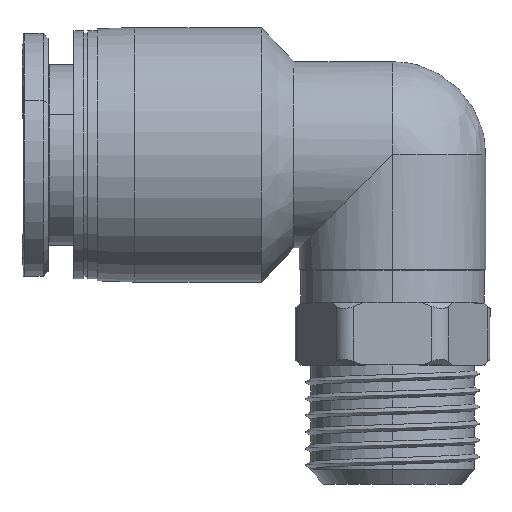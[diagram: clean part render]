
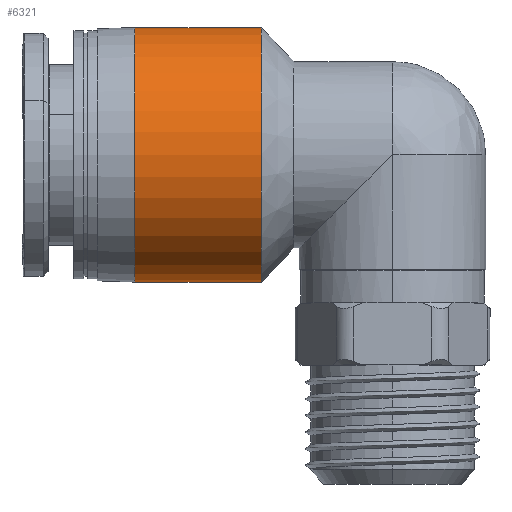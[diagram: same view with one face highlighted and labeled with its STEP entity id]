
A CAD part, top view. The second image highlights one B-rep face of the part: STEP entity #6321.
In plain terms, the highlighted cylindrical face has radius 10.25 mm (diameter 20.5 mm), a partial arc.
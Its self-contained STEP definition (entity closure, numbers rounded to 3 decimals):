
#156 = VERTEX_POINT ( 'NONE', #4255 ) ;
#423 = DIRECTION ( 'NONE',  ( -1., 0., 0. ) ) ;
#581 = CARTESIAN_POINT ( 'NONE',  ( 10.2, -10.25, 0. ) ) ;
#708 = VECTOR ( 'NONE', #1570, 1000. ) ;
#1258 = VERTEX_POINT ( 'NONE', #581 ) ;
#1570 = DIRECTION ( 'NONE',  ( -1., 0., 0. ) ) ;
#1810 = ORIENTED_EDGE ( 'NONE', *, *, #5758, .F. ) ;
#1921 = VECTOR ( 'NONE', #423, 1000. ) ;
#2222 = AXIS2_PLACEMENT_3D ( 'NONE', #3217, #4644, #5875 ) ;
#2228 = DIRECTION ( 'NONE',  ( 0., -1., 0. ) ) ;
#2516 = CARTESIAN_POINT ( 'NONE',  ( 0., 10.25, 0. ) ) ;
#3217 = CARTESIAN_POINT ( 'NONE',  ( 10.2, 0., 0. ) ) ;
#3232 = CIRCLE ( 'NONE', #3621, 10.25 ) ;
#3500 = VERTEX_POINT ( 'NONE', #2516 ) ;
#3621 = AXIS2_PLACEMENT_3D ( 'NONE', #6118, #4135, #8938 ) ;
#3666 = EDGE_CURVE ( 'NONE', #156, #3500, #3232, .T. ) ;
#4135 = DIRECTION ( 'NONE',  ( -1., 0., 0. ) ) ;
#4179 = LINE ( 'NONE', #6357, #708 ) ;
#4219 = ORIENTED_EDGE ( 'NONE', *, *, #4592, .T. ) ;
#4255 = CARTESIAN_POINT ( 'NONE',  ( 0., -10.25, 0. ) ) ;
#4506 = FACE_OUTER_BOUND ( 'NONE', #5198, .T. ) ;
#4592 = EDGE_CURVE ( 'NONE', #7871, #3500, #6110, .T. ) ;
#4644 = DIRECTION ( 'NONE',  ( -1., 0., 0. ) ) ;
#5198 = EDGE_LOOP ( 'NONE', ( #8653, #4219, #7523, #1810 ) ) ;
#5451 = CYLINDRICAL_SURFACE ( 'NONE', #5611, 10.25 ) ;
#5611 = AXIS2_PLACEMENT_3D ( 'NONE', #5618, #5683, #2228 ) ;
#5618 = CARTESIAN_POINT ( 'NONE',  ( -4.9, 0., 0. ) ) ;
#5683 = DIRECTION ( 'NONE',  ( -1., 0., 0. ) ) ;
#5758 = EDGE_CURVE ( 'NONE', #1258, #156, #4179, .T. ) ;
#5875 = DIRECTION ( 'NONE',  ( 0., -1., 0. ) ) ;
#5968 = CARTESIAN_POINT ( 'NONE',  ( -4.9, 10.25, 0. ) ) ;
#6110 = LINE ( 'NONE', #5968, #1921 ) ;
#6118 = CARTESIAN_POINT ( 'NONE',  ( 0., 0., 0. ) ) ;
#6321 = ADVANCED_FACE ( 'NONE', ( #4506 ), #5451, .T. ) ;
#6357 = CARTESIAN_POINT ( 'NONE',  ( -4.9, -10.25, 0. ) ) ;
#6586 = EDGE_CURVE ( 'NONE', #1258, #7871, #7275, .T. ) ;
#7275 = CIRCLE ( 'NONE', #2222, 10.25 ) ;
#7523 = ORIENTED_EDGE ( 'NONE', *, *, #3666, .F. ) ;
#7871 = VERTEX_POINT ( 'NONE', #8040 ) ;
#8040 = CARTESIAN_POINT ( 'NONE',  ( 10.2, 10.25, 0. ) ) ;
#8653 = ORIENTED_EDGE ( 'NONE', *, *, #6586, .T. ) ;
#8938 = DIRECTION ( 'NONE',  ( 0., -1., 0. ) ) ;
